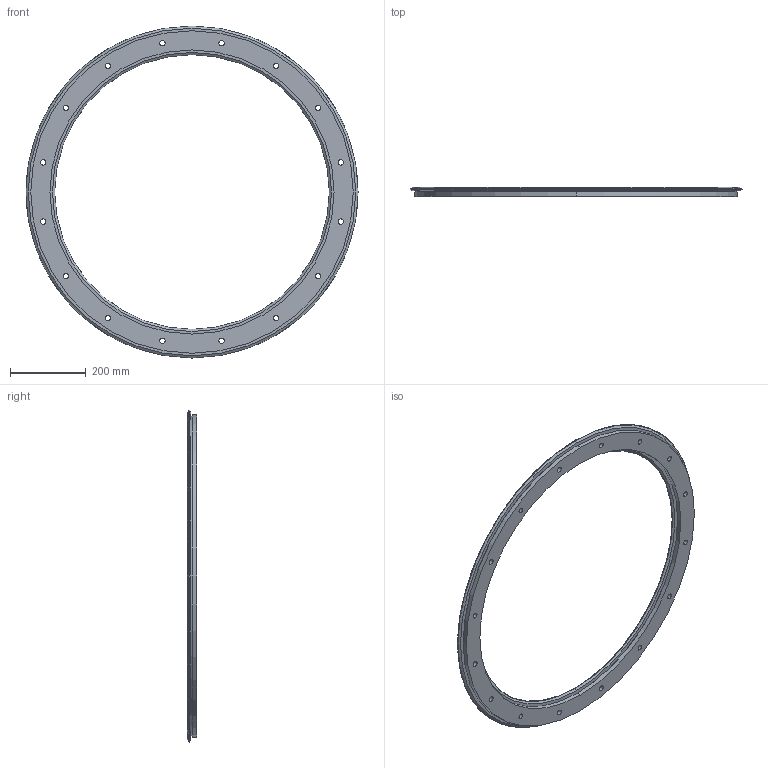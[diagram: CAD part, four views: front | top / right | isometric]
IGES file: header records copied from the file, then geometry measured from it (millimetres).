
Start section: 3D InterOp IGES (v. 2020 1.0.1), Spatial Corp. Copyright (c) 1999-2017.
Global section: file name: r76_799_r360.igs; native system: Spatial Corp.; preprocessor: 3D InterOp ACIS/IGES; author: TraceParts; organization: TraceParts S.A.; date: 20220624.073146; units: millimetre
Bounding box: 874.61 x 24 x 874.61 mm (x, y, z)
Surface area: 525270.2 mm2 (no closed solid volume)
Topology: 0 solids, 0 shells, 110 faces, 504 edges, 504 vertices
Faces by surface type: revolution 88, extrusion 22
